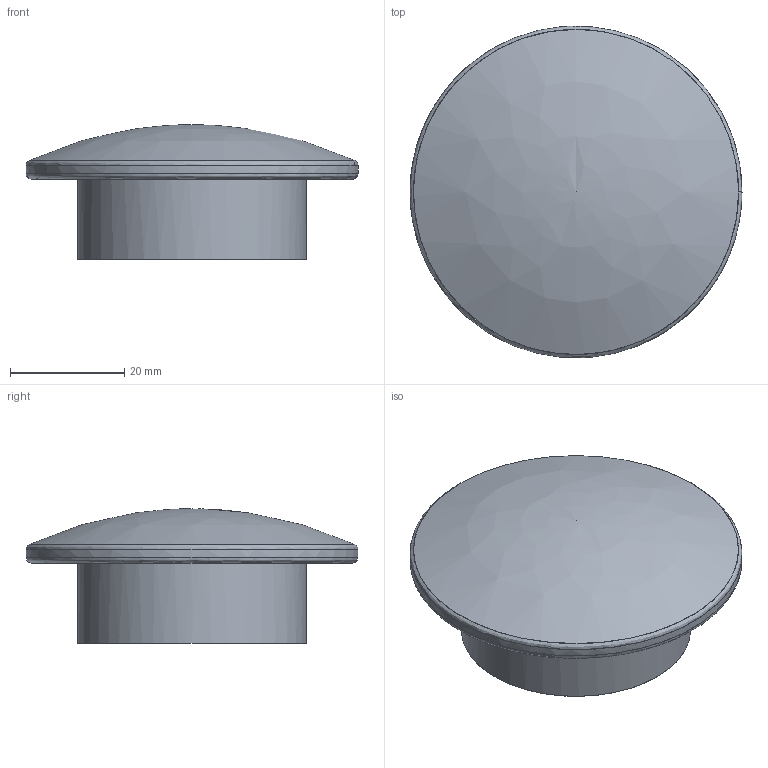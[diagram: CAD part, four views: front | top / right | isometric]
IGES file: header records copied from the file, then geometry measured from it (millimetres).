
Start section: C
Global section: file name: 8305-58.igs; native system: By Siemens PLM Incorporated; preprocessor: XPlus GENERIC/IGES 16.0.42; author: Author; organization: Title; date: 20210505.082803; units: millimetre
Bounding box: 58 x 57.86 x 23.5 mm (x, y, z)
Surface area: 11152.7 mm2 (no closed solid volume)
Topology: 0 solids, 0 shells, 20 faces, 112 edges, 110 vertices
Faces by surface type: bspline 20
